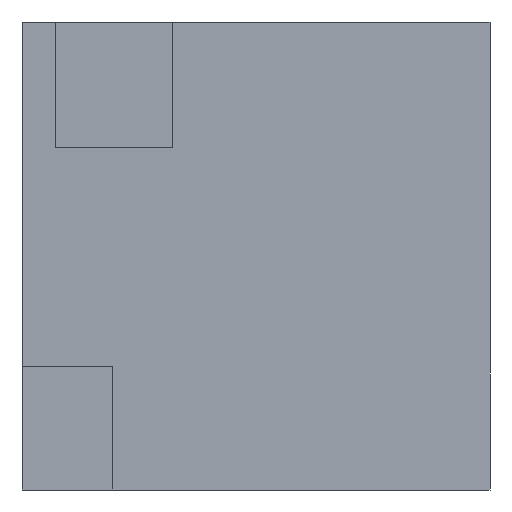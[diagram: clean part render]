
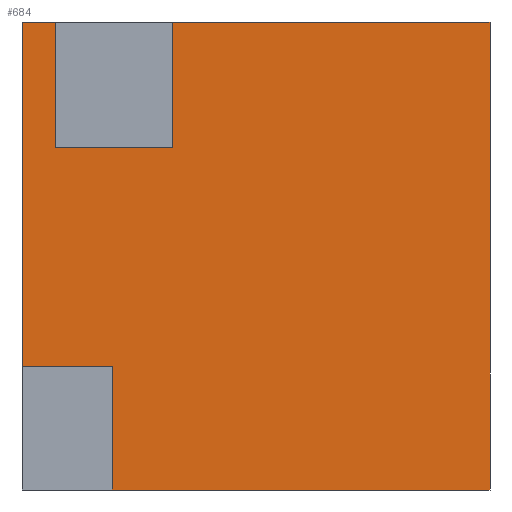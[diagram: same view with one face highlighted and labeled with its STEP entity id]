
A CAD part, front view. The second image highlights one B-rep face of the part: STEP entity #684.
In plain terms, the highlighted planar face has unit normal (0, -1, 0).
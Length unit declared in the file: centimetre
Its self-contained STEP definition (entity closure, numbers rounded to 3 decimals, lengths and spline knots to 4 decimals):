
#18 = DIRECTION ( 'NONE',  ( 0., 0., 1. ) ) ;
#19 = CARTESIAN_POINT ( 'NONE',  ( 322.3276, 0., 732.7626 ) ) ;
#35 = EDGE_CURVE ( 'NONE', #687, #194, #358, .T. ) ;
#36 = ORIENTED_EDGE ( 'NONE', *, *, #498, .F. ) ;
#39 = VECTOR ( 'NONE', #761, 100. ) ;
#59 = VERTEX_POINT ( 'NONE', #233 ) ;
#63 = CARTESIAN_POINT ( 'NONE',  ( 193.028, 0., 0. ) ) ;
#71 = ORIENTED_EDGE ( 'NONE', *, *, #697, .T. ) ;
#72 = CARTESIAN_POINT ( 'NONE',  ( 0., 0., 1000. ) ) ;
#74 = ORIENTED_EDGE ( 'NONE', *, *, #580, .T. ) ;
#79 = CARTESIAN_POINT ( 'NONE',  ( 71.5747, 0., 732.7626 ) ) ;
#82 = LINE ( 'NONE', #577, #276 ) ;
#83 = CARTESIAN_POINT ( 'NONE',  ( 0., 0., 1000. ) ) ;
#93 = CARTESIAN_POINT ( 'NONE',  ( 322.3276, 0., 732.7626 ) ) ;
#98 = DIRECTION ( 'NONE',  ( 0., 0., 1. ) ) ;
#102 = CARTESIAN_POINT ( 'NONE',  ( 0., 0., 0. ) ) ;
#122 = VERTEX_POINT ( 'NONE', #551 ) ;
#129 = LINE ( 'NONE', #500, #376 ) ;
#132 = VECTOR ( 'NONE', #607, 100. ) ;
#133 = VECTOR ( 'NONE', #228, 100. ) ;
#153 = EDGE_CURVE ( 'NONE', #194, #773, #129, .T. ) ;
#157 = ORIENTED_EDGE ( 'NONE', *, *, #320, .F. ) ;
#171 = AXIS2_PLACEMENT_3D ( 'NONE', #626, #328, #565 ) ;
#194 = VERTEX_POINT ( 'NONE', #509 ) ;
#197 = VECTOR ( 'NONE', #98, 100. ) ;
#207 = CARTESIAN_POINT ( 'NONE',  ( 322.3276, 0., 1000. ) ) ;
#228 = DIRECTION ( 'NONE',  ( 0., 0., -1. ) ) ;
#233 = CARTESIAN_POINT ( 'NONE',  ( 1000., 0., 0. ) ) ;
#245 = VECTOR ( 'NONE', #679, 100. ) ;
#247 = DIRECTION ( 'NONE',  ( 0., 0., -1. ) ) ;
#253 = CARTESIAN_POINT ( 'NONE',  ( 0., 0., 1000. ) ) ;
#274 = LINE ( 'NONE', #83, #286 ) ;
#276 = VECTOR ( 'NONE', #18, 100. ) ;
#286 = VECTOR ( 'NONE', #516, 100. ) ;
#305 = LINE ( 'NONE', #413, #133 ) ;
#307 = EDGE_LOOP ( 'NONE', ( #796, #445, #327, #71, #575, #375, #74, #36, #584, #157 ) ) ;
#317 = PLANE ( 'NONE',  #171 ) ;
#320 = EDGE_CURVE ( 'NONE', #405, #735, #774, .T. ) ;
#327 = ORIENTED_EDGE ( 'NONE', *, *, #35, .F. ) ;
#328 = DIRECTION ( 'NONE',  ( 0., 1., 0. ) ) ;
#358 = LINE ( 'NONE', #686, #683 ) ;
#365 = CARTESIAN_POINT ( 'NONE',  ( 0., 0., 264.1265 ) ) ;
#375 = ORIENTED_EDGE ( 'NONE', *, *, #792, .F. ) ;
#376 = VECTOR ( 'NONE', #247, 100. ) ;
#377 = FACE_OUTER_BOUND ( 'NONE', #307, .T. ) ;
#381 = EDGE_CURVE ( 'NONE', #735, #409, #274, .T. ) ;
#391 = VECTOR ( 'NONE', #511, 100. ) ;
#405 = VERTEX_POINT ( 'NONE', #93 ) ;
#409 = VERTEX_POINT ( 'NONE', #650 ) ;
#413 = CARTESIAN_POINT ( 'NONE',  ( 1000., 0., 1000. ) ) ;
#425 = LINE ( 'NONE', #102, #245 ) ;
#426 = DIRECTION ( 'NONE',  ( 1., 0., 0. ) ) ;
#435 = CARTESIAN_POINT ( 'NONE',  ( 71.5747, 0., 732.7626 ) ) ;
#445 = ORIENTED_EDGE ( 'NONE', *, *, #153, .F. ) ;
#498 = EDGE_CURVE ( 'NONE', #409, #59, #305, .T. ) ;
#500 = CARTESIAN_POINT ( 'NONE',  ( 71.5747, 0., 732.7626 ) ) ;
#502 = LINE ( 'NONE', #253, #391 ) ;
#509 = CARTESIAN_POINT ( 'NONE',  ( 71.5747, 0., 1000. ) ) ;
#511 = DIRECTION ( 'NONE',  ( 0., 0., -1. ) ) ;
#516 = DIRECTION ( 'NONE',  ( 1., 0., 0. ) ) ;
#551 = CARTESIAN_POINT ( 'NONE',  ( 193.028, 0., 264.1265 ) ) ;
#561 = LINE ( 'NONE', #435, #39 ) ;
#565 = DIRECTION ( 'NONE',  ( 0., 0., 1. ) ) ;
#575 = ORIENTED_EDGE ( 'NONE', *, *, #602, .F. ) ;
#577 = CARTESIAN_POINT ( 'NONE',  ( 193.028, 0., 0. ) ) ;
#580 = EDGE_CURVE ( 'NONE', #619, #59, #425, .T. ) ;
#584 = ORIENTED_EDGE ( 'NONE', *, *, #381, .F. ) ;
#602 = EDGE_CURVE ( 'NONE', #122, #628, #611, .T. ) ;
#607 = DIRECTION ( 'NONE',  ( -1., 0., 0. ) ) ;
#611 = LINE ( 'NONE', #365, #132 ) ;
#619 = VERTEX_POINT ( 'NONE', #63 ) ;
#626 = CARTESIAN_POINT ( 'NONE',  ( 0., 0., 1000. ) ) ;
#628 = VERTEX_POINT ( 'NONE', #689 ) ;
#650 = CARTESIAN_POINT ( 'NONE',  ( 1000., 0., 1000. ) ) ;
#679 = DIRECTION ( 'NONE',  ( 1., 0., 0. ) ) ;
#683 = VECTOR ( 'NONE', #426, 100. ) ;
#684 = ADVANCED_FACE ( 'NONE', ( #377 ), #317, .F. ) ;
#686 = CARTESIAN_POINT ( 'NONE',  ( 0., 0., 1000. ) ) ;
#687 = VERTEX_POINT ( 'NONE', #72 ) ;
#689 = CARTESIAN_POINT ( 'NONE',  ( 0., 0., 264.1265 ) ) ;
#697 = EDGE_CURVE ( 'NONE', #687, #628, #502, .T. ) ;
#709 = EDGE_CURVE ( 'NONE', #773, #405, #561, .T. ) ;
#735 = VERTEX_POINT ( 'NONE', #207 ) ;
#761 = DIRECTION ( 'NONE',  ( 1., 0., 0. ) ) ;
#773 = VERTEX_POINT ( 'NONE', #79 ) ;
#774 = LINE ( 'NONE', #19, #197 ) ;
#792 = EDGE_CURVE ( 'NONE', #619, #122, #82, .T. ) ;
#796 = ORIENTED_EDGE ( 'NONE', *, *, #709, .F. ) ;
